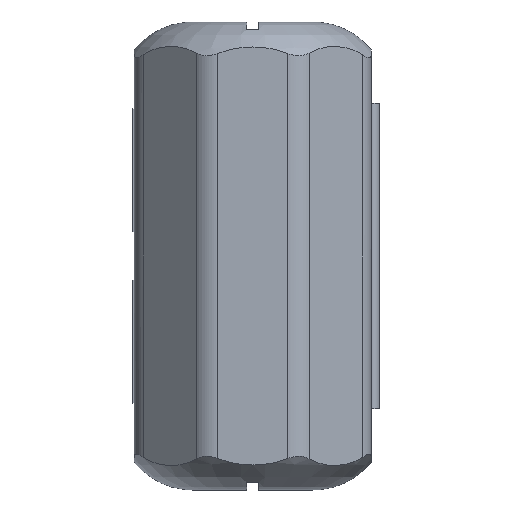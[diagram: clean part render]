
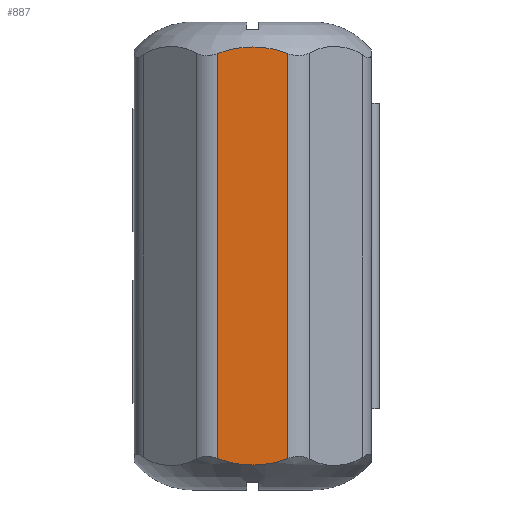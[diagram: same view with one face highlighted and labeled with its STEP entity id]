
A CAD part, front view. The second image highlights one B-rep face of the part: STEP entity #887.
In plain terms, the highlighted planar face has unit normal (0, -1, 0).
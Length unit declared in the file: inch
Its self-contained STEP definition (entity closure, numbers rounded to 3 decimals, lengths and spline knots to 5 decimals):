
#32 = EDGE_LOOP ( 'NONE', ( #1369, #894, #1469, #1976 ) ) ;
#156 = CARTESIAN_POINT ( 'NONE',  ( -1.98098, -0.08706, 1.5086 ) ) ;
#239 = PLANE ( 'NONE',  #743 ) ;
#340 = CARTESIAN_POINT ( 'NONE',  ( -2.05763, -0.08706, 0.81574 ) ) ;
#364 = DIRECTION ( 'NONE',  ( 0., 0., 1. ) ) ;
#457 = CARTESIAN_POINT ( 'NONE',  ( -2.05763, -0.08706, 1.48899 ) ) ;
#473 = CARTESIAN_POINT ( 'NONE',  ( -1.96123, -0.08706, 1.51029 ) ) ;
#688 = LINE ( 'NONE', #1783, #727 ) ;
#727 = VECTOR ( 'NONE', #2798, 39.37008 ) ;
#743 = AXIS2_PLACEMENT_3D ( 'NONE', #3198, #2548, #1230 ) ;
#785 = CARTESIAN_POINT ( 'NONE',  ( -1.92125, -0.08706, 1.51027 ) ) ;
#887 = ADVANCED_FACE ( 'NONE', ( #3949 ), #239, .F. ) ;
#894 = ORIENTED_EDGE ( 'NONE', *, *, #1077, .F. ) ;
#1077 = EDGE_CURVE ( 'NONE', #1915, #2248, #1677, .T. ) ;
#1213 = CARTESIAN_POINT ( 'NONE',  ( -2.04834, -0.08706, 0.13876 ) ) ;
#1230 = DIRECTION ( 'NONE',  ( -1., 0., 0. ) ) ;
#1269 = CARTESIAN_POINT ( 'NONE',  ( -1.82517, -0.08706, 0.14249 ) ) ;
#1322 = EDGE_CURVE ( 'NONE', #3493, #1828, #688, .T. ) ;
#1369 = ORIENTED_EDGE ( 'NONE', *, *, #1684, .F. ) ;
#1413 = VECTOR ( 'NONE', #364, 39.37008 ) ;
#1469 = ORIENTED_EDGE ( 'NONE', *, *, #1737, .T. ) ;
#1486 = CARTESIAN_POINT ( 'NONE',  ( -1.84378, -0.08706, 1.49647 ) ) ;
#1546 = CARTESIAN_POINT ( 'NONE',  ( -1.82517, -0.08706, 0.14249 ) ) ;
#1677 = LINE ( 'NONE', #340, #1413 ) ;
#1684 = EDGE_CURVE ( 'NONE', #2248, #1828, #3808, .T. ) ;
#1737 = EDGE_CURVE ( 'NONE', #1915, #3493, #3238, .T. ) ;
#1772 = CARTESIAN_POINT ( 'NONE',  ( -2.01011, -0.08706, 1.50343 ) ) ;
#1783 = CARTESIAN_POINT ( 'NONE',  ( -1.82517, -0.08706, 0.81574 ) ) ;
#1828 = VERTEX_POINT ( 'NONE', #2827 ) ;
#1846 = CARTESIAN_POINT ( 'NONE',  ( -2.03883, -0.08706, 0.13557 ) ) ;
#1876 = CARTESIAN_POINT ( 'NONE',  ( -2.05763, -0.08706, 0.14249 ) ) ;
#1915 = VERTEX_POINT ( 'NONE', #1876 ) ;
#1976 = ORIENTED_EDGE ( 'NONE', *, *, #1322, .T. ) ;
#2171 = CARTESIAN_POINT ( 'NONE',  ( -1.96123, -0.08706, 0.12119 ) ) ;
#2187 = CARTESIAN_POINT ( 'NONE',  ( -2.05763, -0.08706, 0.14249 ) ) ;
#2236 = CARTESIAN_POINT ( 'NONE',  ( -1.86284, -0.08706, 0.12981 ) ) ;
#2248 = VERTEX_POINT ( 'NONE', #3688 ) ;
#2438 = CARTESIAN_POINT ( 'NONE',  ( -2.03883, -0.08706, 1.49591 ) ) ;
#2548 = DIRECTION ( 'NONE',  ( 0., 1., 0. ) ) ;
#2760 = CARTESIAN_POINT ( 'NONE',  ( -1.82517, -0.08706, 1.48899 ) ) ;
#2798 = DIRECTION ( 'NONE',  ( 0., 0., 1. ) ) ;
#2827 = CARTESIAN_POINT ( 'NONE',  ( -1.82517, -0.08706, 1.48899 ) ) ;
#2869 = CARTESIAN_POINT ( 'NONE',  ( -1.90157, -0.08706, 0.12291 ) ) ;
#3092 = CARTESIAN_POINT ( 'NONE',  ( -2.04834, -0.08706, 1.49272 ) ) ;
#3137 = CARTESIAN_POINT ( 'NONE',  ( -1.86284, -0.08706, 1.50166 ) ) ;
#3155 = CARTESIAN_POINT ( 'NONE',  ( -1.84378, -0.08706, 0.13501 ) ) ;
#3198 = CARTESIAN_POINT ( 'NONE',  ( -1.9414, -0.08706, 0.81574 ) ) ;
#3238 = B_SPLINE_CURVE_WITH_KNOTS ( 'NONE', 3,
 ( #2187, #1213, #1846, #4132, #3507, #4178, #2171, #4192, #2869, #2236, #3155, #1546 ),
 .UNSPECIFIED., .F., .F.,
 ( 4, 2, 2, 2, 2, 4 ),
 ( 0.02874, 0.02949, 0.03024, 0.03174, 0.03323, 0.03473 ),
 .UNSPECIFIED. ) ;
#3439 = CARTESIAN_POINT ( 'NONE',  ( -1.90157, -0.08706, 1.50857 ) ) ;
#3493 = VERTEX_POINT ( 'NONE', #1269 ) ;
#3507 = CARTESIAN_POINT ( 'NONE',  ( -2.01011, -0.08706, 0.12805 ) ) ;
#3688 = CARTESIAN_POINT ( 'NONE',  ( -2.05763, -0.08706, 1.48899 ) ) ;
#3778 = CARTESIAN_POINT ( 'NONE',  ( -2.01974, -0.08706, 1.50125 ) ) ;
#3808 = B_SPLINE_CURVE_WITH_KNOTS ( 'NONE', 3,
 ( #457, #3092, #2438, #3778, #1772, #156, #473, #785, #3439, #3137, #1486, #2760 ),
 .UNSPECIFIED., .F., .F.,
 ( 4, 2, 2, 2, 2, 4 ),
 ( 0.02874, 0.02949, 0.03024, 0.03174, 0.03323, 0.03473 ),
 .UNSPECIFIED. ) ;
#3949 = FACE_OUTER_BOUND ( 'NONE', #32, .T. ) ;
#4132 = CARTESIAN_POINT ( 'NONE',  ( -2.01974, -0.08706, 0.13022 ) ) ;
#4178 = CARTESIAN_POINT ( 'NONE',  ( -1.98098, -0.08706, 0.12287 ) ) ;
#4192 = CARTESIAN_POINT ( 'NONE',  ( -1.92125, -0.08706, 0.1212 ) ) ;
